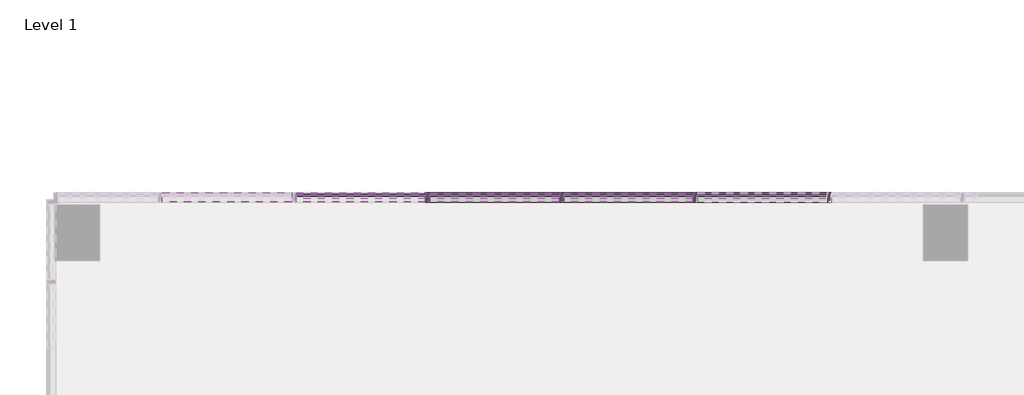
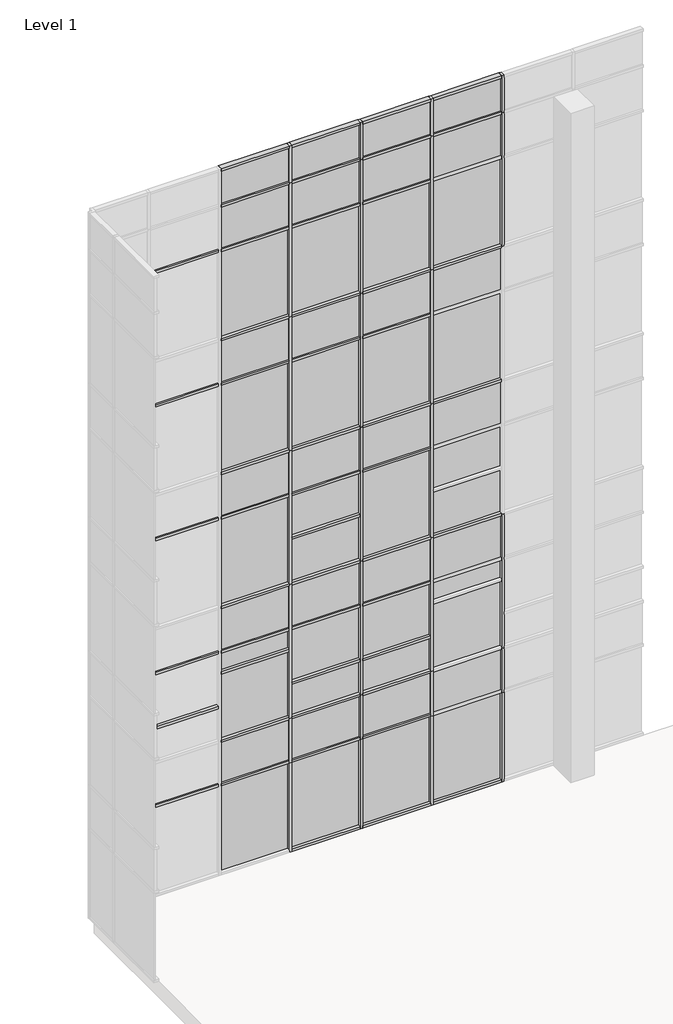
# One storey, part 11 of 23: 77 members, 50 plates.
"""IFC4 building model written with IfcOpenShell, lengths in millimetres."""

from ifc_helpers import new_model, si_unit, origin, place, context, project, spatial, transform, mapped, element, save
from components import member_2b49869a, member_f92b8aa2, member_810865a4, member_f0fea5a5, member_6d5c3e5e, member_9764dd38, system_panel_glazed_14c75400, system_panel_glazed_7d142148, system_panel_glazed_725bf07f, system_panel_glazed_8331d6f5, system_panel_glazed_33b17147, system_panel_glazed_3ed5c639, system_panel_glazed_f9823347, system_panel_solid_5dfe6f83, system_panel_solid_e25e2004, system_panel_solid_b7551183

model = new_model("IFC4")

# Units and contexts
model_context = context("Model", 3, world=origin())
ifc_project = project(units=[si_unit("LENGTHUNIT", "METRE", prefix="MILLI")], contexts=[model_context])

# Site, building, storey
site = spatial("IfcSite", under=ifc_project)
building = spatial("IfcBuilding", under=site)
storey = spatial("IfcBuildingStorey", under=building, Name="Level 1", Elevation=0.0)

# Members
placement = place(None, origin())
member_shape = member_2b49869a(model_context)
element("IfcMember", 1, ObjectType="Rectangular Mullion : 2.5\" x 5\" rectangular", at=placement, inside=storey, context=model_context, shape_type="MappedRepresentation", body=[
    mapped(member_shape, transform((-59919.4623649, 10017.7896508, 2438.4), x_axis=(1.0, 0.0, 0.0), y_axis=(0.0, -1.0, 0.0), z_axis=(0.0, 0.0, -1.0))),
])
element("IfcMember", 2, ObjectType="Rectangular Mullion : 2.5\" x 5\" rectangular", at=placement, inside=storey, context=model_context, shape_type="MappedRepresentation", body=[
    mapped(member_shape, transform((-61748.2623649, 10017.7896508, 2438.4), x_axis=(1.0, 0.0, 0.0), y_axis=(0.0, -1.0, 0.0), z_axis=(0.0, 0.0, -1.0))),
])
element("IfcMember", 3, ObjectType="Rectangular Mullion : 2.5\" x 5\" rectangular", at=placement, inside=storey, context=model_context, shape_type="MappedRepresentation", body=[
    mapped(member_shape, transform((-63577.0623649, 10017.7896508, 2438.4), x_axis=(1.0, 0.0, 0.0), y_axis=(0.0, -1.0, 0.0), z_axis=(0.0, 0.0, -1.0))),
])
element("IfcMember", 4, ObjectType="Rectangular Mullion : 2.5\" x 5\" rectangular", at=placement, inside=storey, context=model_context, shape_type="MappedRepresentation", body=[
    mapped(member_shape, transform((-58090.6623649, 10017.7896508, 2438.4), x_axis=(1.0, 0.0, 0.0), y_axis=(0.0, -1.0, 0.0), z_axis=(0.0, 0.0, -1.0))),
])
member_2_shape = member_f92b8aa2(model_context)
element("IfcMember", 5, ObjectType="Rectangular Mullion : 2.5\" x 5\" rectangular", at=placement, inside=storey, context=model_context, shape_type="MappedRepresentation", body=[
    mapped(member_2_shape, transform((-59919.4623649, 10017.7896508, 18288.0), x_axis=(1.0, 0.0, 0.0), y_axis=(0.0, -1.0, 0.0), z_axis=(0.0, 0.0, -1.0))),
])
element("IfcMember", 6, ObjectType="Rectangular Mullion : 2.5\" x 5\" rectangular", at=placement, inside=storey, context=model_context, shape_type="MappedRepresentation", body=[
    mapped(member_2_shape, transform((-61748.2623649, 10017.7896508, 18288.0), x_axis=(1.0, 0.0, 0.0), y_axis=(0.0, -1.0, 0.0), z_axis=(0.0, 0.0, -1.0))),
])
element("IfcMember", 7, ObjectType="Rectangular Mullion : 2.5\" x 5\" rectangular", at=placement, inside=storey, context=model_context, shape_type="MappedRepresentation", body=[
    mapped(member_2_shape, transform((-63577.0623649, 10017.7896508, 18288.0), x_axis=(1.0, 0.0, 0.0), y_axis=(0.0, -1.0, 0.0), z_axis=(0.0, 0.0, -1.0))),
])
element("IfcMember", 8, ObjectType="Rectangular Mullion : 2.5\" x 5\" rectangular", at=placement, inside=storey, context=model_context, shape_type="MappedRepresentation", body=[
    mapped(member_2_shape, transform((-58090.6623649, 10017.7896508, 18288.0), x_axis=(1.0, 0.0, 0.0), y_axis=(0.0, -1.0, 0.0), z_axis=(0.0, 0.0, -1.0))),
])
member_3_shape = member_810865a4(model_context)
element("IfcMember", 9, ObjectType="Rectangular Mullion : 2.5\" x 5\" rectangular", at=placement, inside=storey, context=model_context, shape_type="MappedRepresentation", body=[
    mapped(member_3_shape, transform((-58090.6623649, 10017.7896508, 3657.6), x_axis=(1.0, 0.0, 0.0), y_axis=(0.0, -1.0, 0.0), z_axis=(0.0, 0.0, -1.0))),
])
element("IfcMember", 10, ObjectType="Rectangular Mullion : 2.5\" x 5\" rectangular", at=placement, inside=storey, context=model_context, shape_type="MappedRepresentation", body=[
    mapped(member_3_shape, transform((-59919.4623649, 10017.7896508, 14630.4), x_axis=(1.0, 0.0, 0.0), y_axis=(0.0, -1.0, 0.0), z_axis=(0.0, 0.0, -1.0))),
])
element("IfcMember", 11, ObjectType="Rectangular Mullion : 2.5\" x 5\" rectangular", at=placement, inside=storey, context=model_context, shape_type="MappedRepresentation", body=[
    mapped(member_3_shape, transform((-59919.4623649, 10017.7896508, 10972.8), x_axis=(1.0, 0.0, 0.0), y_axis=(0.0, -1.0, 0.0), z_axis=(0.0, 0.0, -1.0))),
])
element("IfcMember", 12, ObjectType="Rectangular Mullion : 2.5\" x 5\" rectangular", at=placement, inside=storey, context=model_context, shape_type="MappedRepresentation", body=[
    mapped(member_3_shape, transform((-59919.4623649, 10017.7896508, 7315.2), x_axis=(1.0, 0.0, 0.0), y_axis=(0.0, -1.0, 0.0), z_axis=(0.0, 0.0, -1.0))),
])
element("IfcMember", 13, ObjectType="Rectangular Mullion : 2.5\" x 5\" rectangular", at=placement, inside=storey, context=model_context, shape_type="MappedRepresentation", body=[
    mapped(member_3_shape, transform((-59919.4623649, 10017.7896508, 3657.6), x_axis=(1.0, 0.0, 0.0), y_axis=(0.0, -1.0, 0.0), z_axis=(0.0, 0.0, -1.0))),
])
element("IfcMember", 14, ObjectType="Rectangular Mullion : 2.5\" x 5\" rectangular", at=placement, inside=storey, context=model_context, shape_type="MappedRepresentation", body=[
    mapped(member_3_shape, transform((-61748.2623649, 10017.7896508, 14630.4), x_axis=(1.0, 0.0, 0.0), y_axis=(0.0, -1.0, 0.0), z_axis=(0.0, 0.0, -1.0))),
])
element("IfcMember", 15, ObjectType="Rectangular Mullion : 2.5\" x 5\" rectangular", at=placement, inside=storey, context=model_context, shape_type="MappedRepresentation", body=[
    mapped(member_3_shape, transform((-61748.2623649, 10017.7896508, 10972.8), x_axis=(1.0, 0.0, 0.0), y_axis=(0.0, -1.0, 0.0), z_axis=(0.0, 0.0, -1.0))),
])
element("IfcMember", 16, ObjectType="Rectangular Mullion : 2.5\" x 5\" rectangular", at=placement, inside=storey, context=model_context, shape_type="MappedRepresentation", body=[
    mapped(member_3_shape, transform((-61748.2623649, 10017.7896508, 7315.2), x_axis=(1.0, 0.0, 0.0), y_axis=(0.0, -1.0, 0.0), z_axis=(0.0, 0.0, -1.0))),
])
element("IfcMember", 17, ObjectType="Rectangular Mullion : 2.5\" x 5\" rectangular", at=placement, inside=storey, context=model_context, shape_type="MappedRepresentation", body=[
    mapped(member_3_shape, transform((-61748.2623649, 10017.7896508, 3657.6), x_axis=(1.0, 0.0, 0.0), y_axis=(0.0, -1.0, 0.0), z_axis=(0.0, 0.0, -1.0))),
])
element("IfcMember", 18, ObjectType="Rectangular Mullion : 2.5\" x 5\" rectangular", at=placement, inside=storey, context=model_context, shape_type="MappedRepresentation", body=[
    mapped(member_3_shape, transform((-63577.0623649, 10017.7896508, 14630.4), x_axis=(1.0, 0.0, 0.0), y_axis=(0.0, -1.0, 0.0), z_axis=(0.0, 0.0, -1.0))),
])
element("IfcMember", 19, ObjectType="Rectangular Mullion : 2.5\" x 5\" rectangular", at=placement, inside=storey, context=model_context, shape_type="MappedRepresentation", body=[
    mapped(member_3_shape, transform((-63577.0623649, 10017.7896508, 10972.8), x_axis=(1.0, 0.0, 0.0), y_axis=(0.0, -1.0, 0.0), z_axis=(0.0, 0.0, -1.0))),
])
element("IfcMember", 20, ObjectType="Rectangular Mullion : 2.5\" x 5\" rectangular", at=placement, inside=storey, context=model_context, shape_type="MappedRepresentation", body=[
    mapped(member_3_shape, transform((-63577.0623649, 10017.7896508, 7315.2), x_axis=(1.0, 0.0, 0.0), y_axis=(0.0, -1.0, 0.0), z_axis=(0.0, 0.0, -1.0))),
])
element("IfcMember", 21, ObjectType="Rectangular Mullion : 2.5\" x 5\" rectangular", at=placement, inside=storey, context=model_context, shape_type="MappedRepresentation", body=[
    mapped(member_3_shape, transform((-63577.0623649, 10017.7896508, 3657.6), x_axis=(1.0, 0.0, 0.0), y_axis=(0.0, -1.0, 0.0), z_axis=(0.0, 0.0, -1.0))),
])
element("IfcMember", 22, ObjectType="Rectangular Mullion : 2.5\" x 5\" rectangular", at=placement, inside=storey, context=model_context, shape_type="MappedRepresentation", body=[
    mapped(member_3_shape, transform((-58090.6623649, 10017.7896508, 14630.4), x_axis=(1.0, 0.0, 0.0), y_axis=(0.0, -1.0, 0.0), z_axis=(0.0, 0.0, -1.0))),
])
member_4_shape = member_f0fea5a5(model_context)
element("IfcMember", 23, ObjectType="Rectangular Mullion : 2.5\" x 5\" rectangular", at=placement, inside=storey, context=model_context, shape_type="MappedRepresentation", body=[
    mapped(member_4_shape, transform((-61748.2623649, 10017.7896508, 0.0), x_axis=(1.0, 0.0, 0.0), y_axis=(0.0, -1.0, 0.0), z_axis=(0.0, 0.0, -1.0))),
])
element("IfcMember", 24, ObjectType="Rectangular Mullion : 2.5\" x 5\" rectangular", at=placement, inside=storey, context=model_context, shape_type="MappedRepresentation", body=[
    mapped(member_4_shape, transform((-63577.0623649, 10017.7896508, 0.0), x_axis=(1.0, 0.0, 0.0), y_axis=(0.0, -1.0, 0.0), z_axis=(0.0, 0.0, -1.0))),
])
element("IfcMember", 25, ObjectType="Rectangular Mullion : 2.5\" x 5\" rectangular", at=placement, inside=storey, context=model_context, shape_type="MappedRepresentation", body=[
    mapped(member_4_shape, transform((-59919.4623649, 10017.7896508, 0.0), x_axis=(1.0, 0.0, 0.0), y_axis=(0.0, -1.0, 0.0), z_axis=(0.0, 0.0, -1.0))),
])
element("IfcMember", 26, ObjectType="Rectangular Mullion : 2.5\" x 5\" rectangular", at=placement, inside=storey, context=model_context, shape_type="MappedRepresentation", body=[
    mapped(member_4_shape, transform((-58090.6623649, 10017.7896508, 0.0), x_axis=(1.0, 0.0, 0.0), y_axis=(0.0, -1.0, 0.0), z_axis=(0.0, 0.0, -1.0))),
])
member_5_shape = member_6d5c3e5e(model_context)
element("IfcMember", 27, ObjectType="Rectangular Mullion : 2.5\" x 5\" rectangular", at=placement, inside=storey, context=model_context, shape_type="MappedRepresentation", body=[
    mapped(member_5_shape, transform((-58122.4123649, 10017.7896508, 19304.0), x_axis=(0.0, 0.0, 1.0), y_axis=(0.0, -1.0, 0.0), z_axis=(1.0, 0.0, 0.0))),
])
element("IfcMember", 28, ObjectType="Rectangular Mullion : 2.5\" x 5\" rectangular", at=placement, inside=storey, context=model_context, shape_type="MappedRepresentation", body=[
    mapped(member_5_shape, transform((-59951.2123649, 10017.7896508, 19304.0), x_axis=(0.0, 0.0, 1.0), y_axis=(0.0, -1.0, 0.0), z_axis=(1.0, 0.0, 0.0))),
])
element("IfcMember", 29, ObjectType="Rectangular Mullion : 2.5\" x 5\" rectangular", at=placement, inside=storey, context=model_context, shape_type="MappedRepresentation", body=[
    mapped(member_5_shape, transform((-61780.0123649, 10017.7896508, 19304.0), x_axis=(0.0, 0.0, 1.0), y_axis=(0.0, -1.0, 0.0), z_axis=(1.0, 0.0, 0.0))),
])
element("IfcMember", 30, ObjectType="Rectangular Mullion : 2.5\" x 5\" rectangular", at=placement, inside=storey, context=model_context, shape_type="MappedRepresentation", body=[
    mapped(member_5_shape, transform((-63608.8123649, 10017.7896508, 19304.0), x_axis=(0.0, 0.0, 1.0), y_axis=(0.0, -1.0, 0.0), z_axis=(1.0, 0.0, 0.0))),
])
member_6_shape = member_9764dd38(model_context)
element("IfcMember", 31, ObjectType="Rectangular Mullion : 2.5\" x 5\" rectangular", at=placement, inside=storey, context=model_context, shape_type="MappedRepresentation", body=[
    mapped(member_6_shape, transform((-59951.2123649, 10017.7896508, 17068.8), x_axis=(0.0, 0.0, 1.0), y_axis=(0.0, -1.0, 0.0), z_axis=(1.0, 0.0, 0.0))),
])
element("IfcMember", 32, ObjectType="Rectangular Mullion : 2.5\" x 5\" rectangular", at=placement, inside=storey, context=model_context, shape_type="MappedRepresentation", body=[
    mapped(member_6_shape, transform((-61780.0123649, 10017.7896508, 17068.8), x_axis=(0.0, 0.0, 1.0), y_axis=(0.0, -1.0, 0.0), z_axis=(1.0, 0.0, 0.0))),
])
element("IfcMember", 33, ObjectType="Rectangular Mullion : 2.5\" x 5\" rectangular", at=placement, inside=storey, context=model_context, shape_type="MappedRepresentation", body=[
    mapped(member_6_shape, transform((-63608.8123649, 10017.7896508, 17068.8), x_axis=(0.0, 0.0, 1.0), y_axis=(0.0, -1.0, 0.0), z_axis=(1.0, 0.0, 0.0))),
])
element("IfcMember", 34, ObjectType="Rectangular Mullion : 2.5\" x 5\" rectangular", at=placement, inside=storey, context=model_context, shape_type="MappedRepresentation", body=[
    mapped(member_6_shape, transform((-65437.6123649, 10017.7896508, 17068.8), x_axis=(0.0, 0.0, 1.0), y_axis=(0.0, -1.0, 0.0), z_axis=(1.0, 0.0, 0.0))),
])
element("IfcMember", 35, ObjectType="Rectangular Mullion : 2.5\" x 5\" rectangular", at=placement, inside=storey, context=model_context, shape_type="MappedRepresentation", body=[
    mapped(member_6_shape, transform((-59951.2123649, 10017.7896508, 13411.2), x_axis=(0.0, 0.0, 1.0), y_axis=(0.0, -1.0, 0.0), z_axis=(1.0, 0.0, 0.0))),
])
element("IfcMember", 36, ObjectType="Rectangular Mullion : 2.5\" x 5\" rectangular", at=placement, inside=storey, context=model_context, shape_type="MappedRepresentation", body=[
    mapped(member_6_shape, transform((-61780.0123649, 10017.7896508, 13411.2), x_axis=(0.0, 0.0, 1.0), y_axis=(0.0, -1.0, 0.0), z_axis=(1.0, 0.0, 0.0))),
])
element("IfcMember", 37, ObjectType="Rectangular Mullion : 2.5\" x 5\" rectangular", at=placement, inside=storey, context=model_context, shape_type="MappedRepresentation", body=[
    mapped(member_6_shape, transform((-63608.8123649, 10017.7896508, 13411.2), x_axis=(0.0, 0.0, 1.0), y_axis=(0.0, -1.0, 0.0), z_axis=(1.0, 0.0, 0.0))),
])
element("IfcMember", 38, ObjectType="Rectangular Mullion : 2.5\" x 5\" rectangular", at=placement, inside=storey, context=model_context, shape_type="MappedRepresentation", body=[
    mapped(member_6_shape, transform((-65437.6123649, 10017.7896508, 13411.2), x_axis=(0.0, 0.0, 1.0), y_axis=(0.0, -1.0, 0.0), z_axis=(1.0, 0.0, 0.0))),
])
element("IfcMember", 39, ObjectType="Rectangular Mullion : 2.5\" x 5\" rectangular", at=placement, inside=storey, context=model_context, shape_type="MappedRepresentation", body=[
    mapped(member_6_shape, transform((-59951.2123649, 10017.7896508, 9753.6), x_axis=(0.0, 0.0, 1.0), y_axis=(0.0, -1.0, 0.0), z_axis=(1.0, 0.0, 0.0))),
])
element("IfcMember", 40, ObjectType="Rectangular Mullion : 2.5\" x 5\" rectangular", at=placement, inside=storey, context=model_context, shape_type="MappedRepresentation", body=[
    mapped(member_6_shape, transform((-61780.0123649, 10017.7896508, 9753.6), x_axis=(0.0, 0.0, 1.0), y_axis=(0.0, -1.0, 0.0), z_axis=(1.0, 0.0, 0.0))),
])
element("IfcMember", 41, ObjectType="Rectangular Mullion : 2.5\" x 5\" rectangular", at=placement, inside=storey, context=model_context, shape_type="MappedRepresentation", body=[
    mapped(member_6_shape, transform((-63608.8123649, 10017.7896508, 9753.6), x_axis=(0.0, 0.0, 1.0), y_axis=(0.0, -1.0, 0.0), z_axis=(1.0, 0.0, 0.0))),
])
element("IfcMember", 42, ObjectType="Rectangular Mullion : 2.5\" x 5\" rectangular", at=placement, inside=storey, context=model_context, shape_type="MappedRepresentation", body=[
    mapped(member_6_shape, transform((-65437.6123649, 10017.7896508, 9753.6), x_axis=(0.0, 0.0, 1.0), y_axis=(0.0, -1.0, 0.0), z_axis=(1.0, 0.0, 0.0))),
])
element("IfcMember", 43, ObjectType="Rectangular Mullion : 2.5\" x 5\" rectangular", at=placement, inside=storey, context=model_context, shape_type="MappedRepresentation", body=[
    mapped(member_6_shape, transform((-59951.2123649, 10017.7896508, 6096.0), x_axis=(0.0, 0.0, 1.0), y_axis=(0.0, -1.0, 0.0), z_axis=(1.0, 0.0, 0.0))),
])
element("IfcMember", 44, ObjectType="Rectangular Mullion : 2.5\" x 5\" rectangular", at=placement, inside=storey, context=model_context, shape_type="MappedRepresentation", body=[
    mapped(member_6_shape, transform((-61780.0123649, 10017.7896508, 6096.0), x_axis=(0.0, 0.0, 1.0), y_axis=(0.0, -1.0, 0.0), z_axis=(1.0, 0.0, 0.0))),
])
element("IfcMember", 45, ObjectType="Rectangular Mullion : 2.5\" x 5\" rectangular", at=placement, inside=storey, context=model_context, shape_type="MappedRepresentation", body=[
    mapped(member_6_shape, transform((-63608.8123649, 10017.7896508, 6096.0), x_axis=(0.0, 0.0, 1.0), y_axis=(0.0, -1.0, 0.0), z_axis=(1.0, 0.0, 0.0))),
])
element("IfcMember", 46, ObjectType="Rectangular Mullion : 2.5\" x 5\" rectangular", at=placement, inside=storey, context=model_context, shape_type="MappedRepresentation", body=[
    mapped(member_6_shape, transform((-65437.6123649, 10017.7896508, 6096.0), x_axis=(0.0, 0.0, 1.0), y_axis=(0.0, -1.0, 0.0), z_axis=(1.0, 0.0, 0.0))),
])
element("IfcMember", 47, ObjectType="Rectangular Mullion : 2.5\" x 5\" rectangular", at=placement, inside=storey, context=model_context, shape_type="MappedRepresentation", body=[
    mapped(member_6_shape, transform((-59951.2123649, 10017.7896508, 2470.15), x_axis=(0.0, 0.0, 1.0), y_axis=(0.0, -1.0, 0.0), z_axis=(1.0, 0.0, 0.0))),
])
element("IfcMember", 48, ObjectType="Rectangular Mullion : 2.5\" x 5\" rectangular", at=placement, inside=storey, context=model_context, shape_type="MappedRepresentation", body=[
    mapped(member_6_shape, transform((-61780.0123649, 10017.7896508, 2470.15), x_axis=(0.0, 0.0, 1.0), y_axis=(0.0, -1.0, 0.0), z_axis=(1.0, 0.0, 0.0))),
])
element("IfcMember", 49, ObjectType="Rectangular Mullion : 2.5\" x 5\" rectangular", at=placement, inside=storey, context=model_context, shape_type="MappedRepresentation", body=[
    mapped(member_6_shape, transform((-63608.8123649, 10017.7896508, 2470.15), x_axis=(0.0, 0.0, 1.0), y_axis=(0.0, -1.0, 0.0), z_axis=(1.0, 0.0, 0.0))),
])
element("IfcMember", 50, ObjectType="Rectangular Mullion : 2.5\" x 5\" rectangular", at=placement, inside=storey, context=model_context, shape_type="MappedRepresentation", body=[
    mapped(member_6_shape, transform((-65437.6123649, 10017.7896508, 2470.15), x_axis=(0.0, 0.0, 1.0), y_axis=(0.0, -1.0, 0.0), z_axis=(1.0, 0.0, 0.0))),
])
element("IfcMember", 51, ObjectType="Rectangular Mullion : 2.5\" x 5\" rectangular", at=placement, inside=storey, context=model_context, shape_type="MappedRepresentation", body=[
    mapped(member_6_shape, transform((-65437.6123649, 10017.7896508, 4603.75), x_axis=(0.0, 0.0, 1.0), y_axis=(0.0, -1.0, 0.0), z_axis=(1.0, 0.0, 0.0))),
])
element("IfcMember", 52, ObjectType="Rectangular Mullion : 2.5\" x 5\" rectangular", at=placement, inside=storey, context=model_context, shape_type="MappedRepresentation", body=[
    mapped(member_6_shape, transform((-61780.0123649, 10017.7896508, 4603.75), x_axis=(0.0, 0.0, 1.0), y_axis=(0.0, -1.0, 0.0), z_axis=(1.0, 0.0, 0.0))),
])
element("IfcMember", 53, ObjectType="Rectangular Mullion : 2.5\" x 5\" rectangular", at=placement, inside=storey, context=model_context, shape_type="MappedRepresentation", body=[
    mapped(member_6_shape, transform((-63608.8123649, 10017.7896508, 5518.15), x_axis=(0.0, 0.0, 1.0), y_axis=(0.0, -1.0, 0.0), z_axis=(1.0, 0.0, 0.0))),
])
element("IfcMember", 54, ObjectType="Rectangular Mullion : 2.5\" x 5\" rectangular", at=placement, inside=storey, context=model_context, shape_type="MappedRepresentation", body=[
    mapped(member_6_shape, transform((-61780.0123649, 10017.7896508, 8566.15), x_axis=(0.0, 0.0, 1.0), y_axis=(0.0, -1.0, 0.0), z_axis=(1.0, 0.0, 0.0))),
])
element("IfcMember", 55, ObjectType="Rectangular Mullion : 2.5\" x 5\" rectangular", at=placement, inside=storey, context=model_context, shape_type="MappedRepresentation", body=[
    mapped(member_6_shape, transform((-59951.2123649, 10017.7896508, 4603.75), x_axis=(0.0, 0.0, 1.0), y_axis=(0.0, -1.0, 0.0), z_axis=(1.0, 0.0, 0.0))),
])
element("IfcMember", 56, ObjectType="Rectangular Mullion : 2.5\" x 5\" rectangular", at=placement, inside=storey, context=model_context, shape_type="MappedRepresentation", body=[
    mapped(member_5_shape, transform((-59887.7123649, 10017.7896508, 0.0), x_axis=(0.0, 0.0, -1.0), y_axis=(0.0, -1.0, 0.0), z_axis=(-1.0, 0.0, 0.0))),
])
element("IfcMember", 57, ObjectType="Rectangular Mullion : 2.5\" x 5\" rectangular", at=placement, inside=storey, context=model_context, shape_type="MappedRepresentation", body=[
    mapped(member_5_shape, transform((-61716.5123649, 10017.7896508, 0.0), x_axis=(0.0, 0.0, -1.0), y_axis=(0.0, -1.0, 0.0), z_axis=(-1.0, 0.0, 0.0))),
])
element("IfcMember", 58, ObjectType="Rectangular Mullion : 2.5\" x 5\" rectangular", at=placement, inside=storey, context=model_context, shape_type="MappedRepresentation", body=[
    mapped(member_5_shape, transform((-63545.3123649, 10017.7896508, 0.0), x_axis=(0.0, 0.0, -1.0), y_axis=(0.0, -1.0, 0.0), z_axis=(-1.0, 0.0, 0.0))),
])
element("IfcMember", 59, ObjectType="Rectangular Mullion : 2.5\" x 5\" rectangular", at=placement, inside=storey, context=model_context, shape_type="MappedRepresentation", body=[
    mapped(member_6_shape, transform((-58122.4123649, 10017.7896508, 10972.8), x_axis=(0.0, 0.0, 1.0), y_axis=(0.0, -1.0, 0.0), z_axis=(1.0, 0.0, 0.0))),
])
element("IfcMember", 60, ObjectType="Rectangular Mullion : 2.5\" x 5\" rectangular", at=placement, inside=storey, context=model_context, shape_type="MappedRepresentation", body=[
    mapped(member_6_shape, transform((-59951.2123649, 10017.7896508, 10972.8), x_axis=(0.0, 0.0, 1.0), y_axis=(0.0, -1.0, 0.0), z_axis=(1.0, 0.0, 0.0))),
])
element("IfcMember", 61, ObjectType="Rectangular Mullion : 2.5\" x 5\" rectangular", at=placement, inside=storey, context=model_context, shape_type="MappedRepresentation", body=[
    mapped(member_6_shape, transform((-61780.0123649, 10017.7896508, 10972.8), x_axis=(0.0, 0.0, 1.0), y_axis=(0.0, -1.0, 0.0), z_axis=(1.0, 0.0, 0.0))),
])
element("IfcMember", 62, ObjectType="Rectangular Mullion : 2.5\" x 5\" rectangular", at=placement, inside=storey, context=model_context, shape_type="MappedRepresentation", body=[
    mapped(member_6_shape, transform((-63608.8123649, 10017.7896508, 10972.8), x_axis=(0.0, 0.0, 1.0), y_axis=(0.0, -1.0, 0.0), z_axis=(1.0, 0.0, 0.0))),
])
element("IfcMember", 63, ObjectType="Rectangular Mullion : 2.5\" x 5\" rectangular", at=placement, inside=storey, context=model_context, shape_type="MappedRepresentation", body=[
    mapped(member_6_shape, transform((-58122.4123649, 10017.7896508, 7315.2), x_axis=(0.0, 0.0, 1.0), y_axis=(0.0, -1.0, 0.0), z_axis=(1.0, 0.0, 0.0))),
])
element("IfcMember", 64, ObjectType="Rectangular Mullion : 2.5\" x 5\" rectangular", at=placement, inside=storey, context=model_context, shape_type="MappedRepresentation", body=[
    mapped(member_6_shape, transform((-59951.2123649, 10017.7896508, 7315.2), x_axis=(0.0, 0.0, 1.0), y_axis=(0.0, -1.0, 0.0), z_axis=(1.0, 0.0, 0.0))),
])
element("IfcMember", 65, ObjectType="Rectangular Mullion : 2.5\" x 5\" rectangular", at=placement, inside=storey, context=model_context, shape_type="MappedRepresentation", body=[
    mapped(member_6_shape, transform((-61780.0123649, 10017.7896508, 7315.2), x_axis=(0.0, 0.0, 1.0), y_axis=(0.0, -1.0, 0.0), z_axis=(1.0, 0.0, 0.0))),
])
element("IfcMember", 66, ObjectType="Rectangular Mullion : 2.5\" x 5\" rectangular", at=placement, inside=storey, context=model_context, shape_type="MappedRepresentation", body=[
    mapped(member_6_shape, transform((-63608.8123649, 10017.7896508, 7315.2), x_axis=(0.0, 0.0, 1.0), y_axis=(0.0, -1.0, 0.0), z_axis=(1.0, 0.0, 0.0))),
])
element("IfcMember", 67, ObjectType="Rectangular Mullion : 2.5\" x 5\" rectangular", at=placement, inside=storey, context=model_context, shape_type="MappedRepresentation", body=[
    mapped(member_6_shape, transform((-59951.2123649, 10017.7896508, 18288.0), x_axis=(0.0, 0.0, 1.0), y_axis=(0.0, -1.0, 0.0), z_axis=(1.0, 0.0, 0.0))),
])
element("IfcMember", 68, ObjectType="Rectangular Mullion : 2.5\" x 5\" rectangular", at=placement, inside=storey, context=model_context, shape_type="MappedRepresentation", body=[
    mapped(member_6_shape, transform((-61780.0123649, 10017.7896508, 18288.0), x_axis=(0.0, 0.0, 1.0), y_axis=(0.0, -1.0, 0.0), z_axis=(1.0, 0.0, 0.0))),
])
element("IfcMember", 69, ObjectType="Rectangular Mullion : 2.5\" x 5\" rectangular", at=placement, inside=storey, context=model_context, shape_type="MappedRepresentation", body=[
    mapped(member_6_shape, transform((-63608.8123649, 10017.7896508, 18288.0), x_axis=(0.0, 0.0, 1.0), y_axis=(0.0, -1.0, 0.0), z_axis=(1.0, 0.0, 0.0))),
])
element("IfcMember", 70, ObjectType="Rectangular Mullion : 2.5\" x 5\" rectangular", at=placement, inside=storey, context=model_context, shape_type="MappedRepresentation", body=[
    mapped(member_6_shape, transform((-58122.4123649, 10017.7896508, 18288.0), x_axis=(0.0, 0.0, 1.0), y_axis=(0.0, -1.0, 0.0), z_axis=(1.0, 0.0, 0.0))),
])
element("IfcMember", 71, ObjectType="Rectangular Mullion : 2.5\" x 5\" rectangular", at=placement, inside=storey, context=model_context, shape_type="MappedRepresentation", body=[
    mapped(member_6_shape, transform((-58122.4123649, 10017.7896508, 14630.4), x_axis=(0.0, 0.0, 1.0), y_axis=(0.0, -1.0, 0.0), z_axis=(1.0, 0.0, 0.0))),
])
element("IfcMember", 72, ObjectType="Rectangular Mullion : 2.5\" x 5\" rectangular", at=placement, inside=storey, context=model_context, shape_type="MappedRepresentation", body=[
    mapped(member_6_shape, transform((-59951.2123649, 10017.7896508, 14630.4), x_axis=(0.0, 0.0, 1.0), y_axis=(0.0, -1.0, 0.0), z_axis=(1.0, 0.0, 0.0))),
])
element("IfcMember", 73, ObjectType="Rectangular Mullion : 2.5\" x 5\" rectangular", at=placement, inside=storey, context=model_context, shape_type="MappedRepresentation", body=[
    mapped(member_6_shape, transform((-61780.0123649, 10017.7896508, 14630.4), x_axis=(0.0, 0.0, 1.0), y_axis=(0.0, -1.0, 0.0), z_axis=(1.0, 0.0, 0.0))),
])
element("IfcMember", 74, ObjectType="Rectangular Mullion : 2.5\" x 5\" rectangular", at=placement, inside=storey, context=model_context, shape_type="MappedRepresentation", body=[
    mapped(member_6_shape, transform((-63608.8123649, 10017.7896508, 14630.4), x_axis=(0.0, 0.0, 1.0), y_axis=(0.0, -1.0, 0.0), z_axis=(1.0, 0.0, 0.0))),
])
element("IfcMember", 75, ObjectType="Rectangular Mullion : 2.5\" x 5\" rectangular", at=placement, inside=storey, context=model_context, shape_type="MappedRepresentation", body=[
    mapped(member_6_shape, transform((-61780.0123649, 10017.7896508, 3657.6), x_axis=(0.0, 0.0, 1.0), y_axis=(0.0, -1.0, 0.0), z_axis=(1.0, 0.0, 0.0))),
])
element("IfcMember", 76, ObjectType="Rectangular Mullion : 2.5\" x 5\" rectangular", at=placement, inside=storey, context=model_context, shape_type="MappedRepresentation", body=[
    mapped(member_6_shape, transform((-59951.2123649, 10017.7896508, 3657.6), x_axis=(0.0, 0.0, 1.0), y_axis=(0.0, -1.0, 0.0), z_axis=(1.0, 0.0, 0.0))),
])
element("IfcMember", 77, ObjectType="Rectangular Mullion : 2.5\" x 5\" rectangular", at=placement, inside=storey, context=model_context, shape_type="MappedRepresentation", body=[
    mapped(member_6_shape, transform((-63608.8123649, 10017.7896508, 3657.6), x_axis=(0.0, 0.0, 1.0), y_axis=(0.0, -1.0, 0.0), z_axis=(1.0, 0.0, 0.0))),
])

# Plates
system_panel_glazed_shape = system_panel_glazed_14c75400(model_context)
element("IfcPlate", 78, ObjectType="System Panel : Glazed", at=placement, inside=storey, context=model_context, shape_type="MappedRepresentation", body=[
    mapped(system_panel_glazed_shape, transform((-59005.0623649, 10017.7896508, 14662.15), x_axis=(1.0, 0.0, 0.0), y_axis=(0.0, 1.0, 0.0), z_axis=(0.0, 0.0, 1.0))),
])
element("IfcPlate", 79, ObjectType="System Panel : Glazed", at=placement, inside=storey, context=model_context, shape_type="MappedRepresentation", body=[
    mapped(system_panel_glazed_shape, transform((-60833.8623649, 10017.7896508, 14662.15), x_axis=(1.0, 0.0, 0.0), y_axis=(0.0, 1.0, 0.0), z_axis=(0.0, 0.0, 1.0))),
])
element("IfcPlate", 80, ObjectType="System Panel : Glazed", at=placement, inside=storey, context=model_context, shape_type="MappedRepresentation", body=[
    mapped(system_panel_glazed_shape, transform((-62662.6623649, 10017.7896508, 14662.15), x_axis=(1.0, 0.0, 0.0), y_axis=(0.0, 1.0, 0.0), z_axis=(0.0, 0.0, 1.0))),
])
element("IfcPlate", 81, ObjectType="System Panel : Glazed", at=placement, inside=storey, context=model_context, shape_type="MappedRepresentation", body=[
    mapped(system_panel_glazed_shape, transform((-64491.4623649, 10017.7896508, 14662.15), x_axis=(1.0, 0.0, 0.0), y_axis=(0.0, 1.0, 0.0), z_axis=(0.0, 0.0, 1.0))),
])
element("IfcPlate", 82, ObjectType="System Panel : Glazed", at=placement, inside=storey, context=model_context, shape_type="MappedRepresentation", body=[
    mapped(system_panel_glazed_shape, transform((-59005.0623649, 10017.7896508, 11004.55), x_axis=(1.0, 0.0, 0.0), y_axis=(0.0, 1.0, 0.0), z_axis=(0.0, 0.0, 1.0))),
])
element("IfcPlate", 83, ObjectType="System Panel : Glazed", at=placement, inside=storey, context=model_context, shape_type="MappedRepresentation", body=[
    mapped(system_panel_glazed_shape, transform((-60833.8623649, 10017.7896508, 11004.55), x_axis=(1.0, 0.0, 0.0), y_axis=(0.0, 1.0, 0.0), z_axis=(0.0, 0.0, 1.0))),
])
element("IfcPlate", 84, ObjectType="System Panel : Glazed", at=placement, inside=storey, context=model_context, shape_type="MappedRepresentation", body=[
    mapped(system_panel_glazed_shape, transform((-62662.6623649, 10017.7896508, 11004.55), x_axis=(1.0, 0.0, 0.0), y_axis=(0.0, 1.0, 0.0), z_axis=(0.0, 0.0, 1.0))),
])
element("IfcPlate", 85, ObjectType="System Panel : Glazed", at=placement, inside=storey, context=model_context, shape_type="MappedRepresentation", body=[
    mapped(system_panel_glazed_shape, transform((-64491.4623649, 10017.7896508, 11004.55), x_axis=(1.0, 0.0, 0.0), y_axis=(0.0, 1.0, 0.0), z_axis=(0.0, 0.0, 1.0))),
])
element("IfcPlate", 86, ObjectType="System Panel : Glazed", at=placement, inside=storey, context=model_context, shape_type="MappedRepresentation", body=[
    mapped(system_panel_glazed_shape, transform((-60833.8623649, 10017.7896508, 7346.95), x_axis=(1.0, 0.0, 0.0), y_axis=(0.0, 1.0, 0.0), z_axis=(0.0, 0.0, 1.0))),
])
element("IfcPlate", 87, ObjectType="System Panel : Glazed", at=placement, inside=storey, context=model_context, shape_type="MappedRepresentation", body=[
    mapped(system_panel_glazed_shape, transform((-64491.4623649, 10017.7896508, 7346.95), x_axis=(1.0, 0.0, 0.0), y_axis=(0.0, 1.0, 0.0), z_axis=(0.0, 0.0, 1.0))),
])
element("IfcPlate", 88, ObjectType="System Panel : Glazed", at=placement, inside=storey, context=model_context, shape_type="MappedRepresentation", body=[
    mapped(system_panel_glazed_shape, transform((-59005.0623649, 10017.7896508, 63.5), x_axis=(1.0, 0.0, 0.0), y_axis=(0.0, 1.0, 0.0), z_axis=(0.0, 0.0, 1.0))),
])
element("IfcPlate", 89, ObjectType="System Panel : Glazed", at=placement, inside=storey, context=model_context, shape_type="MappedRepresentation", body=[
    mapped(system_panel_glazed_shape, transform((-60833.8623649, 10017.7896508, 63.5), x_axis=(1.0, 0.0, 0.0), y_axis=(0.0, 1.0, 0.0), z_axis=(0.0, 0.0, 1.0))),
])
element("IfcPlate", 90, ObjectType="System Panel : Glazed", at=placement, inside=storey, context=model_context, shape_type="MappedRepresentation", body=[
    mapped(system_panel_glazed_shape, transform((-62662.6623649, 10017.7896508, 63.5), x_axis=(1.0, 0.0, 0.0), y_axis=(0.0, 1.0, 0.0), z_axis=(0.0, 0.0, 1.0))),
])
element("IfcPlate", 91, ObjectType="System Panel : Glazed", at=placement, inside=storey, context=model_context, shape_type="MappedRepresentation", body=[
    mapped(system_panel_glazed_shape, transform((-64491.4623649, 10017.7896508, 63.5), x_axis=(1.0, 0.0, 0.0), y_axis=(0.0, 1.0, 0.0), z_axis=(0.0, 0.0, 1.0))),
])
system_panel_glazed_2_shape = system_panel_glazed_7d142148(model_context)
element("IfcPlate", 92, ObjectType="System Panel : Glazed", at=placement, inside=storey, context=model_context, shape_type="MappedRepresentation", body=[
    mapped(system_panel_glazed_2_shape, transform((-60833.8623649, 10017.7896508, 3689.35), x_axis=(1.0, 0.0, 0.0), y_axis=(0.0, 1.0, 0.0), z_axis=(0.0, 0.0, 1.0))),
])
element("IfcPlate", 93, ObjectType="System Panel : Glazed", at=placement, inside=storey, context=model_context, shape_type="MappedRepresentation", body=[
    mapped(system_panel_glazed_2_shape, transform((-62662.6623649, 10017.7896508, 3689.35), x_axis=(1.0, 0.0, 0.0), y_axis=(0.0, 1.0, 0.0), z_axis=(0.0, 0.0, 1.0))),
])
system_panel_glazed_3_shape = system_panel_glazed_725bf07f(model_context)
element("IfcPlate", 94, ObjectType="System Panel : Glazed", at=placement, inside=storey, context=model_context, shape_type="MappedRepresentation", body=[
    mapped(system_panel_glazed_3_shape, transform((-62662.6623649, 10017.7896508, 4635.5), x_axis=(1.0, 0.0, 0.0), y_axis=(0.0, 1.0, 0.0), z_axis=(0.0, 0.0, 1.0))),
])
element("IfcPlate", 95, ObjectType="System Panel : Glazed", at=placement, inside=storey, context=model_context, shape_type="MappedRepresentation", body=[
    mapped(system_panel_glazed_3_shape, transform((-60833.8623649, 10017.7896508, 4635.5), x_axis=(1.0, 0.0, 0.0), y_axis=(0.0, 1.0, 0.0), z_axis=(0.0, 0.0, 1.0))),
])
system_panel_glazed_4_shape = system_panel_glazed_8331d6f5(model_context)
element("IfcPlate", 96, ObjectType="System Panel : Glazed", at=placement, inside=storey, context=model_context, shape_type="MappedRepresentation", body=[
    mapped(system_panel_glazed_4_shape, transform((-59005.0623649, 10017.7896508, 3689.35), x_axis=(1.0, 0.0, 0.0), y_axis=(0.0, 1.0, 0.0), z_axis=(0.0, 0.0, 1.0))),
])
element("IfcPlate", 97, ObjectType="System Panel : Glazed", at=placement, inside=storey, context=model_context, shape_type="MappedRepresentation", body=[
    mapped(system_panel_glazed_4_shape, transform((-64491.4623649, 10017.7896508, 3689.35), x_axis=(1.0, 0.0, 0.0), y_axis=(0.0, 1.0, 0.0), z_axis=(0.0, 0.0, 1.0))),
])
system_panel_glazed_5_shape = system_panel_glazed_33b17147(model_context)
element("IfcPlate", 98, ObjectType="System Panel : Glazed", at=placement, inside=storey, context=model_context, shape_type="MappedRepresentation", body=[
    mapped(system_panel_glazed_5_shape, transform((-64491.4623649, 10017.7896508, 5549.9), x_axis=(1.0, 0.0, 0.0), y_axis=(0.0, 1.0, 0.0), z_axis=(0.0, 0.0, 1.0))),
])
element("IfcPlate", 99, ObjectType="System Panel : Glazed", at=placement, inside=storey, context=model_context, shape_type="MappedRepresentation", body=[
    mapped(system_panel_glazed_5_shape, transform((-59005.0623649, 10017.7896508, 5549.9), x_axis=(1.0, 0.0, 0.0), y_axis=(0.0, 1.0, 0.0), z_axis=(0.0, 0.0, 1.0))),
])
system_panel_glazed_6_shape = system_panel_glazed_3ed5c639(model_context)
element("IfcPlate", 100, ObjectType="System Panel : Glazed", at=placement, inside=storey, context=model_context, shape_type="MappedRepresentation", body=[
    mapped(system_panel_glazed_6_shape, transform((-59005.0623649, 10017.7896508, 7346.95), x_axis=(1.0, 0.0, 0.0), y_axis=(0.0, 1.0, 0.0), z_axis=(0.0, 0.0, 1.0))),
])
element("IfcPlate", 101, ObjectType="System Panel : Glazed", at=placement, inside=storey, context=model_context, shape_type="MappedRepresentation", body=[
    mapped(system_panel_glazed_6_shape, transform((-62662.6623649, 10017.7896508, 7346.95), x_axis=(1.0, 0.0, 0.0), y_axis=(0.0, 1.0, 0.0), z_axis=(0.0, 0.0, 1.0))),
])
system_panel_glazed_7_shape = system_panel_glazed_f9823347(model_context)
element("IfcPlate", 102, ObjectType="System Panel : Glazed", at=placement, inside=storey, context=model_context, shape_type="MappedRepresentation", body=[
    mapped(system_panel_glazed_7_shape, transform((-62662.6623649, 10017.7896508, 8597.9), x_axis=(1.0, 0.0, 0.0), y_axis=(0.0, 1.0, 0.0), z_axis=(0.0, 0.0, 1.0))),
])
element("IfcPlate", 103, ObjectType="System Panel : Glazed", at=placement, inside=storey, context=model_context, shape_type="MappedRepresentation", body=[
    mapped(system_panel_glazed_7_shape, transform((-59005.0623649, 10017.7896508, 8597.9), x_axis=(1.0, 0.0, 0.0), y_axis=(0.0, 1.0, 0.0), z_axis=(0.0, 0.0, 1.0))),
])
system_panel_solid_shape = system_panel_solid_5dfe6f83(model_context)
element("IfcPlate", 104, ObjectType="System Panel : Solid", at=placement, inside=storey, context=model_context, shape_type="MappedRepresentation", body=[
    mapped(system_panel_solid_shape, transform((-64491.4623649, 10017.7896508, 18319.75), x_axis=(1.0, 0.0, 0.0), y_axis=(0.0, 1.0, 0.0), z_axis=(0.0, 0.0, 1.0))),
])
element("IfcPlate", 105, ObjectType="System Panel : Solid", at=placement, inside=storey, context=model_context, shape_type="MappedRepresentation", body=[
    mapped(system_panel_solid_shape, transform((-62662.6623649, 10017.7896508, 18319.75), x_axis=(1.0, 0.0, 0.0), y_axis=(0.0, 1.0, 0.0), z_axis=(0.0, 0.0, 1.0))),
])
element("IfcPlate", 106, ObjectType="System Panel : Solid", at=placement, inside=storey, context=model_context, shape_type="MappedRepresentation", body=[
    mapped(system_panel_solid_shape, transform((-60833.8623649, 10017.7896508, 18319.75), x_axis=(1.0, 0.0, 0.0), y_axis=(0.0, 1.0, 0.0), z_axis=(0.0, 0.0, 1.0))),
])
element("IfcPlate", 107, ObjectType="System Panel : Solid", at=placement, inside=storey, context=model_context, shape_type="MappedRepresentation", body=[
    mapped(system_panel_solid_shape, transform((-59005.0623649, 10017.7896508, 18319.75), x_axis=(1.0, 0.0, 0.0), y_axis=(0.0, 1.0, 0.0), z_axis=(0.0, 0.0, 1.0))),
])
system_panel_solid_2_shape = system_panel_solid_e25e2004(model_context)
element("IfcPlate", 108, ObjectType="System Panel : Solid", at=placement, inside=storey, context=model_context, shape_type="MappedRepresentation", body=[
    mapped(system_panel_solid_2_shape, transform((-59005.0623649, 10017.7896508, 17100.55), x_axis=(1.0, 0.0, 0.0), y_axis=(0.0, 1.0, 0.0), z_axis=(0.0, 0.0, 1.0))),
])
element("IfcPlate", 109, ObjectType="System Panel : Solid", at=placement, inside=storey, context=model_context, shape_type="MappedRepresentation", body=[
    mapped(system_panel_solid_2_shape, transform((-60833.8623649, 10017.7896508, 17100.55), x_axis=(1.0, 0.0, 0.0), y_axis=(0.0, 1.0, 0.0), z_axis=(0.0, 0.0, 1.0))),
])
element("IfcPlate", 110, ObjectType="System Panel : Solid", at=placement, inside=storey, context=model_context, shape_type="MappedRepresentation", body=[
    mapped(system_panel_solid_2_shape, transform((-62662.6623649, 10017.7896508, 17100.55), x_axis=(1.0, 0.0, 0.0), y_axis=(0.0, 1.0, 0.0), z_axis=(0.0, 0.0, 1.0))),
])
element("IfcPlate", 111, ObjectType="System Panel : Solid", at=placement, inside=storey, context=model_context, shape_type="MappedRepresentation", body=[
    mapped(system_panel_solid_2_shape, transform((-64491.4623649, 10017.7896508, 17100.55), x_axis=(1.0, 0.0, 0.0), y_axis=(0.0, 1.0, 0.0), z_axis=(0.0, 0.0, 1.0))),
])
element("IfcPlate", 112, ObjectType="System Panel : Solid", at=placement, inside=storey, context=model_context, shape_type="MappedRepresentation", body=[
    mapped(system_panel_solid_2_shape, transform((-59005.0623649, 10017.7896508, 13442.95), x_axis=(1.0, 0.0, 0.0), y_axis=(0.0, 1.0, 0.0), z_axis=(0.0, 0.0, 1.0))),
])
element("IfcPlate", 113, ObjectType="System Panel : Solid", at=placement, inside=storey, context=model_context, shape_type="MappedRepresentation", body=[
    mapped(system_panel_solid_2_shape, transform((-60833.8623649, 10017.7896508, 13442.95), x_axis=(1.0, 0.0, 0.0), y_axis=(0.0, 1.0, 0.0), z_axis=(0.0, 0.0, 1.0))),
])
element("IfcPlate", 114, ObjectType="System Panel : Solid", at=placement, inside=storey, context=model_context, shape_type="MappedRepresentation", body=[
    mapped(system_panel_solid_2_shape, transform((-62662.6623649, 10017.7896508, 13442.95), x_axis=(1.0, 0.0, 0.0), y_axis=(0.0, 1.0, 0.0), z_axis=(0.0, 0.0, 1.0))),
])
element("IfcPlate", 115, ObjectType="System Panel : Solid", at=placement, inside=storey, context=model_context, shape_type="MappedRepresentation", body=[
    mapped(system_panel_solid_2_shape, transform((-64491.4623649, 10017.7896508, 13442.95), x_axis=(1.0, 0.0, 0.0), y_axis=(0.0, 1.0, 0.0), z_axis=(0.0, 0.0, 1.0))),
])
element("IfcPlate", 116, ObjectType="System Panel : Solid", at=placement, inside=storey, context=model_context, shape_type="MappedRepresentation", body=[
    mapped(system_panel_solid_2_shape, transform((-59005.0623649, 10017.7896508, 9785.35), x_axis=(1.0, 0.0, 0.0), y_axis=(0.0, 1.0, 0.0), z_axis=(0.0, 0.0, 1.0))),
])
element("IfcPlate", 117, ObjectType="System Panel : Solid", at=placement, inside=storey, context=model_context, shape_type="MappedRepresentation", body=[
    mapped(system_panel_solid_2_shape, transform((-60833.8623649, 10017.7896508, 9785.35), x_axis=(1.0, 0.0, 0.0), y_axis=(0.0, 1.0, 0.0), z_axis=(0.0, 0.0, 1.0))),
])
element("IfcPlate", 118, ObjectType="System Panel : Solid", at=placement, inside=storey, context=model_context, shape_type="MappedRepresentation", body=[
    mapped(system_panel_solid_2_shape, transform((-62662.6623649, 10017.7896508, 9785.35), x_axis=(1.0, 0.0, 0.0), y_axis=(0.0, 1.0, 0.0), z_axis=(0.0, 0.0, 1.0))),
])
element("IfcPlate", 119, ObjectType="System Panel : Solid", at=placement, inside=storey, context=model_context, shape_type="MappedRepresentation", body=[
    mapped(system_panel_solid_2_shape, transform((-64491.4623649, 10017.7896508, 9785.35), x_axis=(1.0, 0.0, 0.0), y_axis=(0.0, 1.0, 0.0), z_axis=(0.0, 0.0, 1.0))),
])
element("IfcPlate", 120, ObjectType="System Panel : Solid", at=placement, inside=storey, context=model_context, shape_type="MappedRepresentation", body=[
    mapped(system_panel_solid_2_shape, transform((-59005.0623649, 10017.7896508, 6127.75), x_axis=(1.0, 0.0, 0.0), y_axis=(0.0, 1.0, 0.0), z_axis=(0.0, 0.0, 1.0))),
])
element("IfcPlate", 121, ObjectType="System Panel : Solid", at=placement, inside=storey, context=model_context, shape_type="MappedRepresentation", body=[
    mapped(system_panel_solid_2_shape, transform((-60833.8623649, 10017.7896508, 6127.75), x_axis=(1.0, 0.0, 0.0), y_axis=(0.0, 1.0, 0.0), z_axis=(0.0, 0.0, 1.0))),
])
element("IfcPlate", 122, ObjectType="System Panel : Solid", at=placement, inside=storey, context=model_context, shape_type="MappedRepresentation", body=[
    mapped(system_panel_solid_2_shape, transform((-62662.6623649, 10017.7896508, 6127.75), x_axis=(1.0, 0.0, 0.0), y_axis=(0.0, 1.0, 0.0), z_axis=(0.0, 0.0, 1.0))),
])
element("IfcPlate", 123, ObjectType="System Panel : Solid", at=placement, inside=storey, context=model_context, shape_type="MappedRepresentation", body=[
    mapped(system_panel_solid_2_shape, transform((-64491.4623649, 10017.7896508, 6127.75), x_axis=(1.0, 0.0, 0.0), y_axis=(0.0, 1.0, 0.0), z_axis=(0.0, 0.0, 1.0))),
])
system_panel_solid_3_shape = system_panel_solid_b7551183(model_context)
element("IfcPlate", 124, ObjectType="System Panel : Solid", at=placement, inside=storey, context=model_context, shape_type="MappedRepresentation", body=[
    mapped(system_panel_solid_3_shape, transform((-59005.0623649, 10017.7896508, 2501.9), x_axis=(1.0, 0.0, 0.0), y_axis=(0.0, 1.0, 0.0), z_axis=(0.0, 0.0, 1.0))),
])
element("IfcPlate", 125, ObjectType="System Panel : Solid", at=placement, inside=storey, context=model_context, shape_type="MappedRepresentation", body=[
    mapped(system_panel_solid_3_shape, transform((-60833.8623649, 10017.7896508, 2501.9), x_axis=(1.0, 0.0, 0.0), y_axis=(0.0, 1.0, 0.0), z_axis=(0.0, 0.0, 1.0))),
])
element("IfcPlate", 126, ObjectType="System Panel : Solid", at=placement, inside=storey, context=model_context, shape_type="MappedRepresentation", body=[
    mapped(system_panel_solid_3_shape, transform((-62662.6623649, 10017.7896508, 2501.9), x_axis=(1.0, 0.0, 0.0), y_axis=(0.0, 1.0, 0.0), z_axis=(0.0, 0.0, 1.0))),
])
element("IfcPlate", 127, ObjectType="System Panel : Solid", at=placement, inside=storey, context=model_context, shape_type="MappedRepresentation", body=[
    mapped(system_panel_solid_3_shape, transform((-64491.4623649, 10017.7896508, 2501.9), x_axis=(1.0, 0.0, 0.0), y_axis=(0.0, 1.0, 0.0), z_axis=(0.0, 0.0, 1.0))),
])

save(model, "model.ifc")
